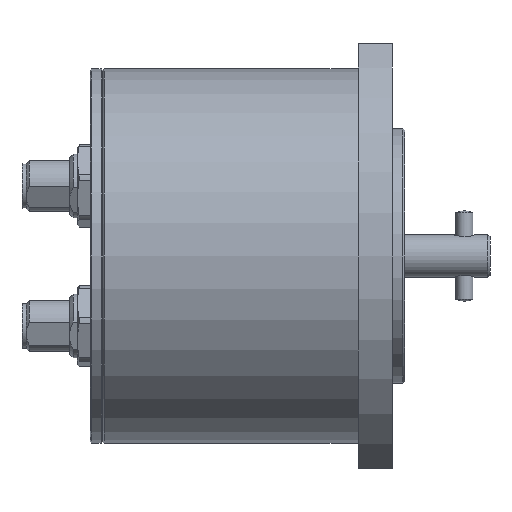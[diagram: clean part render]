
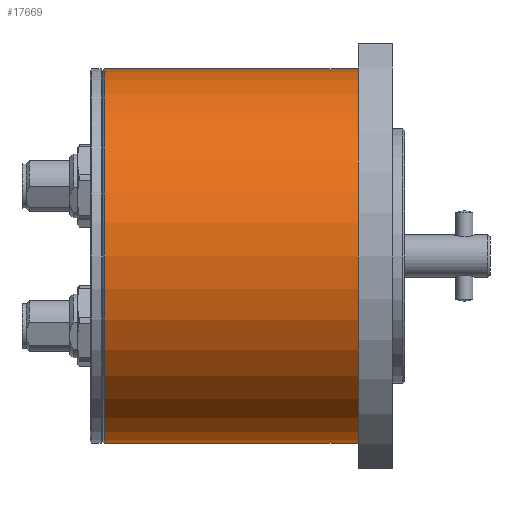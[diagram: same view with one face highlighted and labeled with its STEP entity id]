
A CAD part, front view. The second image highlights one B-rep face of the part: STEP entity #17669.
In plain terms, the highlighted cylindrical face has radius 44 mm (diameter 88 mm), a full revolution.
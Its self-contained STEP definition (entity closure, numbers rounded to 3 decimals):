
#594=B_SPLINE_CURVE_WITH_KNOTS('',3,(#29886,#29887,#29888,#29889,#29890,
#29891,#29892,#29893),.UNSPECIFIED.,.F.,.F.,(4,2,2,4),(4.42,
4.545,5.,5.454),.UNSPECIFIED.);
#595=B_SPLINE_CURVE_WITH_KNOTS('',3,(#29895,#29896,#29897,#29898,#29899,
#29900,#29901,#29902),.UNSPECIFIED.,.F.,.F.,(4,2,2,4),(5.454,
5.909,6.363,6.488),.UNSPECIFIED.);
#596=B_SPLINE_CURVE_WITH_KNOTS('',3,(#29906,#29907,#29908,#29909,#29910,
#29911,#29912,#29913),.UNSPECIFIED.,.F.,.F.,(4,2,2,4),(0.784,
0.909,1.364,1.818),.UNSPECIFIED.);
#597=B_SPLINE_CURVE_WITH_KNOTS('',3,(#29915,#29916,#29917,#29918,#29919,
#29920,#29921,#29922),.UNSPECIFIED.,.F.,.F.,(4,2,2,4),(1.818,
2.273,2.727,2.852),.UNSPECIFIED.);
#1150=CYLINDRICAL_SURFACE('',#18949,44.);
#1319=FACE_BOUND('',#3680,.T.);
#1320=FACE_BOUND('',#3681,.T.);
#1766=CIRCLE('',#18950,44.);
#1767=CIRCLE('',#18951,44.);
#2586=FACE_OUTER_BOUND('',#3679,.T.);
#3679=EDGE_LOOP('',(#14246));
#3680=EDGE_LOOP('',(#14247,#14248,#14249,#14250,#14251,#14252));
#3681=EDGE_LOOP('',(#14253));
#5053=LINE('',#29904,#6381);
#5054=LINE('',#29923,#6382);
#6381=VECTOR('',#22251,10.);
#6382=VECTOR('',#22252,10.);
#7875=VERTEX_POINT('',#29882);
#7876=VERTEX_POINT('',#29884);
#7877=VERTEX_POINT('',#29885);
#7878=VERTEX_POINT('',#29894);
#7879=VERTEX_POINT('',#29903);
#7880=VERTEX_POINT('',#29905);
#7881=VERTEX_POINT('',#29914);
#7882=VERTEX_POINT('',#29924);
#10090=EDGE_CURVE('',#7875,#7875,#1766,.T.);
#10091=EDGE_CURVE('',#7876,#7877,#594,.T.);
#10092=EDGE_CURVE('',#7877,#7878,#595,.T.);
#10093=EDGE_CURVE('',#7878,#7879,#5053,.T.);
#10094=EDGE_CURVE('',#7879,#7880,#596,.T.);
#10095=EDGE_CURVE('',#7880,#7881,#597,.T.);
#10096=EDGE_CURVE('',#7881,#7876,#5054,.T.);
#10097=EDGE_CURVE('',#7882,#7882,#1767,.T.);
#14246=ORIENTED_EDGE('',*,*,#10090,.F.);
#14247=ORIENTED_EDGE('',*,*,#10091,.T.);
#14248=ORIENTED_EDGE('',*,*,#10092,.T.);
#14249=ORIENTED_EDGE('',*,*,#10093,.T.);
#14250=ORIENTED_EDGE('',*,*,#10094,.T.);
#14251=ORIENTED_EDGE('',*,*,#10095,.T.);
#14252=ORIENTED_EDGE('',*,*,#10096,.T.);
#14253=ORIENTED_EDGE('',*,*,#10097,.F.);
#17669=ADVANCED_FACE('',(#2586,#1319,#1320),#1150,.T.);
#18949=AXIS2_PLACEMENT_3D('',#29881,#22247,#22248);
#18950=AXIS2_PLACEMENT_3D('',#29883,#22249,#22250);
#18951=AXIS2_PLACEMENT_3D('',#29925,#22253,#22254);
#22247=DIRECTION('center_axis',(1.,0.,0.));
#22248=DIRECTION('ref_axis',(0.,1.,0.));
#22249=DIRECTION('center_axis',(1.,0.,0.));
#22250=DIRECTION('ref_axis',(0.,0.,-1.));
#22251=DIRECTION('',(1.,0.,0.));
#22252=DIRECTION('',(-1.,0.,0.));
#22253=DIRECTION('center_axis',(-1.,0.,0.));
#22254=DIRECTION('ref_axis',(0.,-1.,0.));
#29881=CARTESIAN_POINT('Origin',(-42.,0.,0.));
#29882=CARTESIAN_POINT('',(-11.,44.,0.));
#29883=CARTESIAN_POINT('Origin',(-11.,0.,0.));
#29884=CARTESIAN_POINT('',(-63.05,41.903,-13.422));
#29885=CARTESIAN_POINT('',(-67.5,38.105,-22.));
#29886=CARTESIAN_POINT('Ctrl Pts',(-63.05,41.903,-13.422));
#29887=CARTESIAN_POINT('Ctrl Pts',(-63.381,41.819,-13.683));
#29888=CARTESIAN_POINT('Ctrl Pts',(-63.693,41.729,-13.957));
#29889=CARTESIAN_POINT('Ctrl Pts',(-65.046,41.283,-15.262));
#29890=CARTESIAN_POINT('Ctrl Pts',(-65.969,40.801,-16.536));
#29891=CARTESIAN_POINT('Ctrl Pts',(-67.196,39.593,-19.25));
#29892=CARTESIAN_POINT('Ctrl Pts',(-67.5,38.863,-20.688));
#29893=CARTESIAN_POINT('Ctrl Pts',(-67.5,38.105,-22.));
#29894=CARTESIAN_POINT('',(-63.05,32.575,-29.578));
#29895=CARTESIAN_POINT('Ctrl Pts',(-67.5,38.105,-22.));
#29896=CARTESIAN_POINT('Ctrl Pts',(-67.5,37.348,-23.312));
#29897=CARTESIAN_POINT('Ctrl Pts',(-67.196,36.468,-24.664));
#29898=CARTESIAN_POINT('Ctrl Pts',(-65.969,34.721,-27.067));
#29899=CARTESIAN_POINT('Ctrl Pts',(-65.046,33.858,-28.121));
#29900=CARTESIAN_POINT('Ctrl Pts',(-63.693,32.952,-29.16));
#29901=CARTESIAN_POINT('Ctrl Pts',(-63.381,32.76,-29.375));
#29902=CARTESIAN_POINT('Ctrl Pts',(-63.05,32.575,-29.578));
#29903=CARTESIAN_POINT('',(-47.95,32.575,-29.578));
#29904=CARTESIAN_POINT('',(-42.,32.575,-29.578));
#29905=CARTESIAN_POINT('',(-43.5,38.105,-22.));
#29906=CARTESIAN_POINT('Ctrl Pts',(-47.95,32.575,-29.578));
#29907=CARTESIAN_POINT('Ctrl Pts',(-47.619,32.76,-29.375));
#29908=CARTESIAN_POINT('Ctrl Pts',(-47.307,32.952,-29.16));
#29909=CARTESIAN_POINT('Ctrl Pts',(-45.954,33.858,-28.121));
#29910=CARTESIAN_POINT('Ctrl Pts',(-45.031,34.721,-27.067));
#29911=CARTESIAN_POINT('Ctrl Pts',(-43.804,36.468,-24.664));
#29912=CARTESIAN_POINT('Ctrl Pts',(-43.5,37.348,-23.312));
#29913=CARTESIAN_POINT('Ctrl Pts',(-43.5,38.105,-22.));
#29914=CARTESIAN_POINT('',(-47.95,41.903,-13.422));
#29915=CARTESIAN_POINT('Ctrl Pts',(-43.5,38.105,-22.));
#29916=CARTESIAN_POINT('Ctrl Pts',(-43.5,38.863,-20.688));
#29917=CARTESIAN_POINT('Ctrl Pts',(-43.804,39.593,-19.25));
#29918=CARTESIAN_POINT('Ctrl Pts',(-45.031,40.801,-16.536));
#29919=CARTESIAN_POINT('Ctrl Pts',(-45.954,41.283,-15.262));
#29920=CARTESIAN_POINT('Ctrl Pts',(-47.307,41.729,-13.957));
#29921=CARTESIAN_POINT('Ctrl Pts',(-47.619,41.819,-13.683));
#29922=CARTESIAN_POINT('Ctrl Pts',(-47.95,41.903,-13.422));
#29923=CARTESIAN_POINT('',(-42.,41.903,-13.422));
#29924=CARTESIAN_POINT('',(-70.7,44.,0.));
#29925=CARTESIAN_POINT('Origin',(-70.7,0.,0.));
